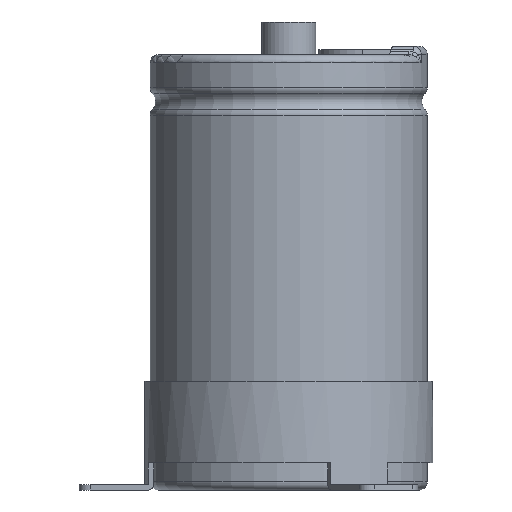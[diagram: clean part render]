
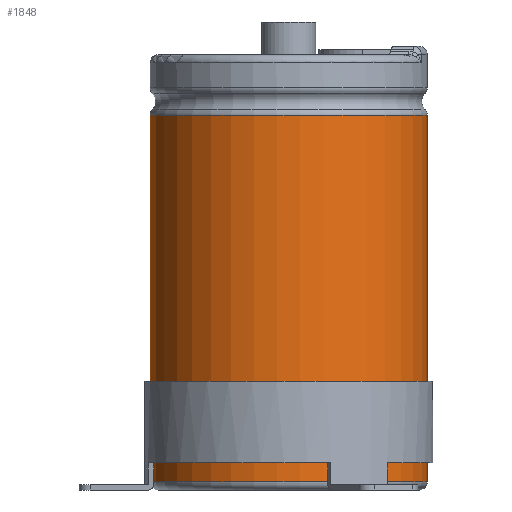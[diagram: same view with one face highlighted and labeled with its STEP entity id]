
A CAD part, front view. The second image highlights one B-rep face of the part: STEP entity #1848.
In plain terms, the highlighted cylindrical face has radius 25.5 mm (diameter 51 mm), a partial arc.
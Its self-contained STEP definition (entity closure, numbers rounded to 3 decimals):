
#370=LINE('',#9285,#608);
#371=LINE('',#9289,#609);
#608=VECTOR('',#6925,1.);
#609=VECTOR('',#6928,1.);
#1457=FACE_OUTER_BOUND('',#2362,.T.);
#1848=ADVANCED_FACE('',(#1457),#1998,.T.);
#1998=CYLINDRICAL_SURFACE('',#5769,25.5);
#2362=EDGE_LOOP('',(#3435,#3436,#3437,#3438));
#3435=ORIENTED_EDGE('',*,*,#4849,.T.);
#3436=ORIENTED_EDGE('',*,*,#4850,.T.);
#3437=ORIENTED_EDGE('',*,*,#4851,.F.);
#3438=ORIENTED_EDGE('',*,*,#4852,.F.);
#4222=VERTEX_POINT('',#9278);
#4224=VERTEX_POINT('',#9282);
#4225=VERTEX_POINT('',#9286);
#4226=VERTEX_POINT('',#9288);
#4849=EDGE_CURVE('',#4222,#4224,#5258,.T.);
#4850=EDGE_CURVE('',#4224,#4225,#370,.T.);
#4851=EDGE_CURVE('',#4226,#4225,#5259,.T.);
#4852=EDGE_CURVE('',#4222,#4226,#371,.T.);
#5258=CIRCLE('',#5766,25.5);
#5259=CIRCLE('',#5768,25.5);
#5766=AXIS2_PLACEMENT_3D('',#9283,#6921,#6922);
#5768=AXIS2_PLACEMENT_3D('',#9287,#6926,#6927);
#5769=AXIS2_PLACEMENT_3D('',#9290,#6929,#6930);
#6921=DIRECTION('',(0.,0.,-1.));
#6922=DIRECTION('',(0.,1.,0.));
#6925=DIRECTION('',(0.,0.,-1.));
#6926=DIRECTION('',(0.,0.,-1.));
#6927=DIRECTION('',(0.,1.,0.));
#6928=DIRECTION('',(0.,0.,-1.));
#6929=DIRECTION('',(0.,0.,-1.));
#6930=DIRECTION('',(0.,1.,0.));
#9278=CARTESIAN_POINT('',(3.989,25.186,68.9));
#9282=CARTESIAN_POINT('',(-3.989,25.186,68.9));
#9283=CARTESIAN_POINT('',(0.,0.,68.9));
#9285=CARTESIAN_POINT('',(-3.989,25.186,68.9));
#9286=CARTESIAN_POINT('',(-3.989,25.186,1.5));
#9287=CARTESIAN_POINT('',(0.,0.,1.5));
#9288=CARTESIAN_POINT('',(3.989,25.186,1.5));
#9289=CARTESIAN_POINT('',(3.989,25.186,68.9));
#9290=CARTESIAN_POINT('',(0.,0.,0.));
